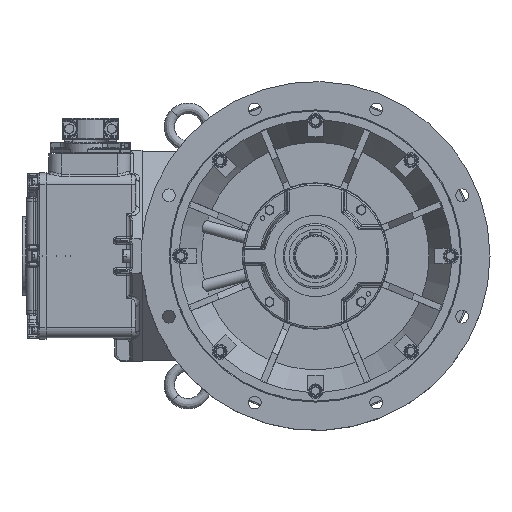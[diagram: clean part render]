
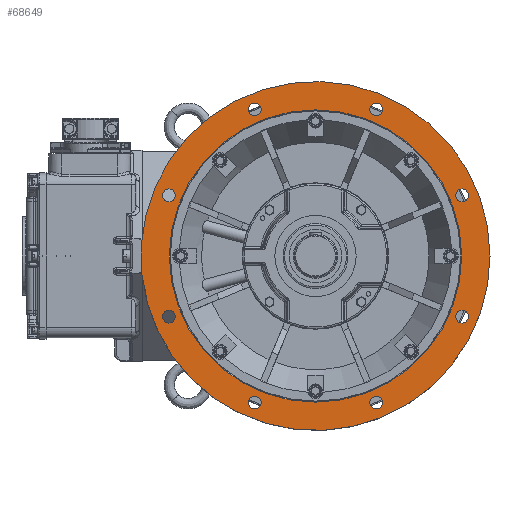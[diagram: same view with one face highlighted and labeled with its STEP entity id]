
A CAD part, left-side view. The second image highlights one B-rep face of the part: STEP entity #68649.
In plain terms, the highlighted planar face has unit normal (-1, 0, 0).
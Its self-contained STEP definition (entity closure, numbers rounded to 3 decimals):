
#15529=ORIENTED_EDGE('',*,*,#26869,.F.);
#15530=ORIENTED_EDGE('',*,*,#26871,.F.);
#15531=ORIENTED_EDGE('',*,*,#26873,.F.);
#15532=ORIENTED_EDGE('',*,*,#26875,.F.);
#15533=ORIENTED_EDGE('',*,*,#26877,.F.);
#15534=ORIENTED_EDGE('',*,*,#26879,.F.);
#15535=ORIENTED_EDGE('',*,*,#26881,.F.);
#15536=ORIENTED_EDGE('',*,*,#26883,.F.);
#15537=ORIENTED_EDGE('',*,*,#26903,.F.);
#15538=ORIENTED_EDGE('',*,*,#26904,.T.);
#26869=EDGE_CURVE('',#33000,#33000,#36391,.T.);
#26871=EDGE_CURVE('',#33002,#33002,#36393,.T.);
#26873=EDGE_CURVE('',#33004,#33004,#36395,.T.);
#26875=EDGE_CURVE('',#33006,#33006,#36397,.T.);
#26877=EDGE_CURVE('',#33008,#33008,#36399,.T.);
#26879=EDGE_CURVE('',#33010,#33010,#36401,.T.);
#26881=EDGE_CURVE('',#33012,#33012,#36403,.T.);
#26883=EDGE_CURVE('',#33014,#33014,#36405,.T.);
#26903=EDGE_CURVE('',#33034,#33034,#36425,.T.);
#26904=EDGE_CURVE('',#33035,#33035,#36426,.F.);
#33000=VERTEX_POINT('',#102738);
#33002=VERTEX_POINT('',#102743);
#33004=VERTEX_POINT('',#102748);
#33006=VERTEX_POINT('',#102753);
#33008=VERTEX_POINT('',#102758);
#33010=VERTEX_POINT('',#102763);
#33012=VERTEX_POINT('',#102768);
#33014=VERTEX_POINT('',#102773);
#33034=VERTEX_POINT('',#102831);
#33035=VERTEX_POINT('',#102833);
#36391=CIRCLE('',#72639,12.);
#36393=CIRCLE('',#72642,12.);
#36395=CIRCLE('',#72645,12.);
#36397=CIRCLE('',#72648,12.);
#36399=CIRCLE('',#72651,12.);
#36401=CIRCLE('',#72654,12.);
#36403=CIRCLE('',#72657,12.);
#36405=CIRCLE('',#72660,12.);
#36425=CIRCLE('',#72698,276.402);
#36426=CIRCLE('',#72699,330.);
#39391=EDGE_LOOP('',(#15529));
#39392=EDGE_LOOP('',(#15530));
#39393=EDGE_LOOP('',(#15531));
#39394=EDGE_LOOP('',(#15532));
#39395=EDGE_LOOP('',(#15533));
#39396=EDGE_LOOP('',(#15534));
#39397=EDGE_LOOP('',(#15535));
#39398=EDGE_LOOP('',(#15536));
#39399=EDGE_LOOP('',(#15537));
#39400=EDGE_LOOP('',(#15538));
#42887=FACE_BOUND('',#39391,.T.);
#42888=FACE_BOUND('',#39392,.T.);
#42889=FACE_BOUND('',#39393,.T.);
#42890=FACE_BOUND('',#39394,.T.);
#42891=FACE_BOUND('',#39395,.T.);
#42892=FACE_BOUND('',#39396,.T.);
#42893=FACE_BOUND('',#39397,.T.);
#42894=FACE_BOUND('',#39398,.T.);
#42895=FACE_BOUND('',#39399,.T.);
#42896=FACE_BOUND('',#39400,.T.);
#45762=PLANE('',#72697);
#68649=ADVANCED_FACE('',(#42887,#42888,#42889,#42890,#42891,#42892,#42893,
#42894,#42895,#42896),#45762,.F.);
#72639=AXIS2_PLACEMENT_3D('',#102737,#81998,#81999);
#72642=AXIS2_PLACEMENT_3D('',#102742,#82004,#82005);
#72645=AXIS2_PLACEMENT_3D('',#102747,#82010,#82011);
#72648=AXIS2_PLACEMENT_3D('',#102752,#82016,#82017);
#72651=AXIS2_PLACEMENT_3D('',#102757,#82022,#82023);
#72654=AXIS2_PLACEMENT_3D('',#102762,#82028,#82029);
#72657=AXIS2_PLACEMENT_3D('',#102767,#82034,#82035);
#72660=AXIS2_PLACEMENT_3D('',#102772,#82040,#82041);
#72697=AXIS2_PLACEMENT_3D('',#102829,#82114,#82115);
#72698=AXIS2_PLACEMENT_3D('',#102830,#82116,#82117);
#72699=AXIS2_PLACEMENT_3D('',#102832,#82118,#82119);
#81998=DIRECTION('',(-1.,0.,0.));
#81999=DIRECTION('',(0.,0.,1.));
#82004=DIRECTION('',(-1.,0.,0.));
#82005=DIRECTION('',(0.,0.,1.));
#82010=DIRECTION('',(-1.,0.,0.));
#82011=DIRECTION('',(0.,0.,1.));
#82016=DIRECTION('',(-1.,0.,0.));
#82017=DIRECTION('',(0.,0.,1.));
#82022=DIRECTION('',(-1.,0.,0.));
#82023=DIRECTION('',(0.,0.,1.));
#82028=DIRECTION('',(-1.,0.,0.));
#82029=DIRECTION('',(0.,0.,1.));
#82034=DIRECTION('',(-1.,0.,0.));
#82035=DIRECTION('',(0.,0.,1.));
#82040=DIRECTION('',(-1.,0.,0.));
#82041=DIRECTION('',(0.,0.,1.));
#82114=DIRECTION('',(1.,0.,0.));
#82115=DIRECTION('',(0.,-1.,0.));
#82116=DIRECTION('',(-1.,0.,0.));
#82117=DIRECTION('',(0.,1.,0.));
#82118=DIRECTION('',(1.,0.,0.));
#82119=DIRECTION('',(0.,-1.,0.));
#102737=CARTESIAN_POINT('',(-89.5,114.805,277.164));
#102738=CARTESIAN_POINT('',(-89.5,114.805,289.164));
#102742=CARTESIAN_POINT('',(-89.5,-114.805,277.164));
#102743=CARTESIAN_POINT('',(-89.5,-114.805,289.164));
#102747=CARTESIAN_POINT('',(-89.5,-277.164,114.805));
#102748=CARTESIAN_POINT('',(-89.5,-277.164,126.805));
#102752=CARTESIAN_POINT('',(-89.5,-277.164,-114.805));
#102753=CARTESIAN_POINT('',(-89.5,-277.164,-102.805));
#102757=CARTESIAN_POINT('',(-89.5,-114.805,-277.164));
#102758=CARTESIAN_POINT('',(-89.5,-114.805,-265.164));
#102762=CARTESIAN_POINT('',(-89.5,114.805,-277.164));
#102763=CARTESIAN_POINT('',(-89.5,114.805,-265.164));
#102767=CARTESIAN_POINT('',(-89.5,277.164,-114.805));
#102768=CARTESIAN_POINT('',(-89.5,277.164,-102.805));
#102772=CARTESIAN_POINT('',(-89.5,277.164,114.805));
#102773=CARTESIAN_POINT('',(-89.5,277.164,126.805));
#102829=CARTESIAN_POINT('',(-89.5,276.402,0.));
#102830=CARTESIAN_POINT('',(-89.5,0.,0.));
#102831=CARTESIAN_POINT('',(-89.5,276.402,0.));
#102832=CARTESIAN_POINT('',(-89.5,0.,0.));
#102833=CARTESIAN_POINT('',(-89.5,-330.,0.));
